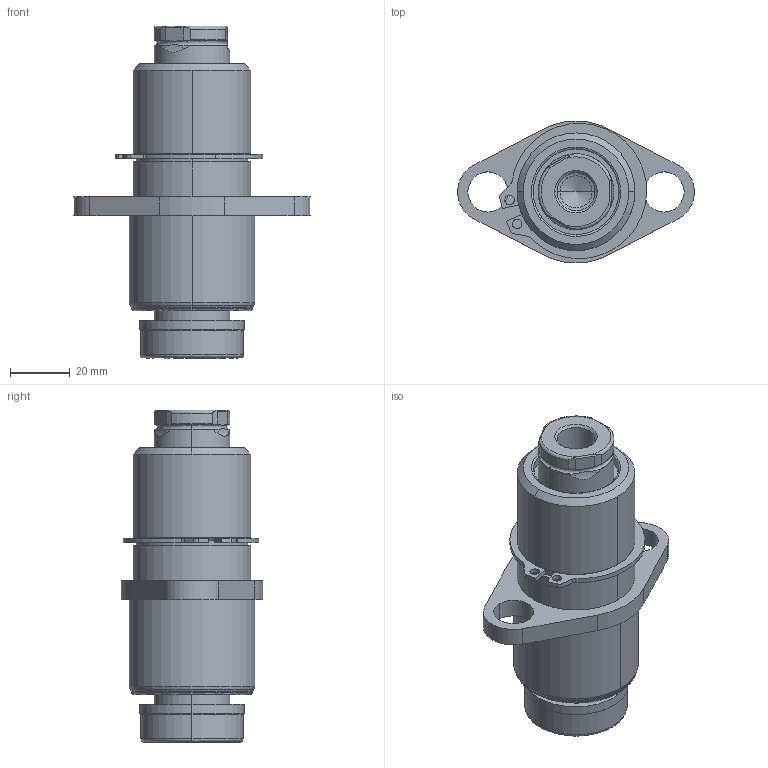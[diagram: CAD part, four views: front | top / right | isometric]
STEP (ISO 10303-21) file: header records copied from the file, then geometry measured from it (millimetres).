
FILE_DESCRIPTION (( 'STEP AP214' ), '1' );
FILE_NAME ('GK105-N3-2-BP-E-XXX.STEP', '2020-09-21T13:32:52', ( '' ), ( '' ), 'SwSTEP 2.0', 'SolidWorks 2017', '' );
FILE_SCHEMA (( 'AUTOMOTIVE_DESIGN' ));
Length unit declared in the file: inch
Products named in the file (7): GK1.00-N3-2-BP-Base; GK105-N3-2-BP-E-XXX; RetainingRing; GK105-DampeningWasher; GK105-E-XXX-GuidePin
Assembly tree (6 placements, depth 3):
  GK105-N3-2-BP-E-XXX
    GK1.00-N3-2-BP-Base
      GK1.00-N3-2-BP-Base
      RetainingRing
    GK105-E-XXX-GuidePin
      GK105-E-XXX-GuidePin
      GK105-DampeningWasher
Bounding box: 79.18 x 47.5 x 111.12 mm (x, y, z)
Volume: 126863.6 mm3; surface area: 36601.3 mm2
Topology: 4 solids, 4 shells, 146 faces, 356 edges, 227 vertices
Faces by surface type: cylinder 65, plane 36, bspline 33, cone 12
Entity records: 7515 total; most frequent: CARTESIAN_POINT 3802, ORIENTED_EDGE 708, DIRECTION 649, EDGE_CURVE 354, AXIS2_PLACEMENT_3D 262, VERTEX_POINT 227, EDGE_LOOP 169, ADVANCED_FACE 146
